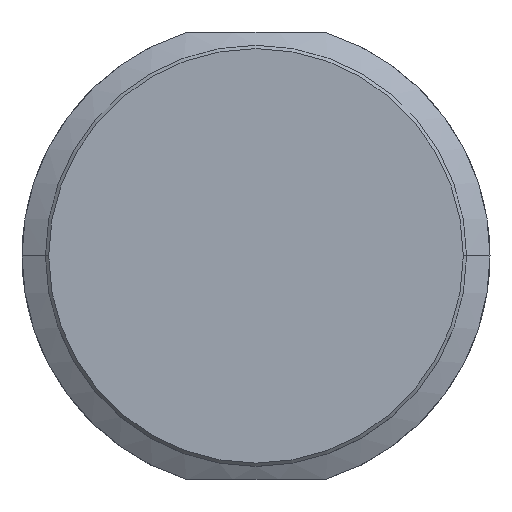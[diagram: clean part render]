
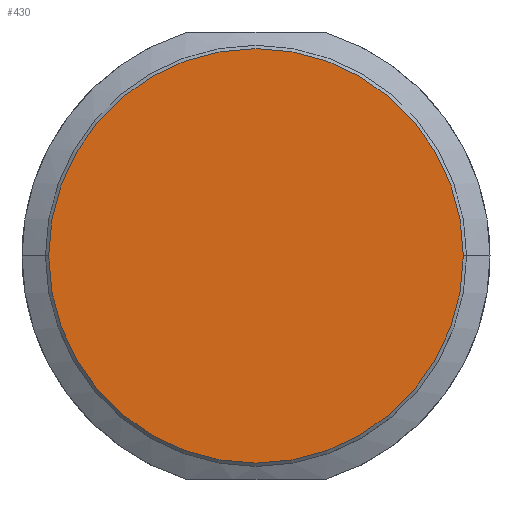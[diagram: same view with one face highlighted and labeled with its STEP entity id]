
A CAD part, top view. The second image highlights one B-rep face of the part: STEP entity #430.
In plain terms, the highlighted planar face has unit normal (0, 0, 1).
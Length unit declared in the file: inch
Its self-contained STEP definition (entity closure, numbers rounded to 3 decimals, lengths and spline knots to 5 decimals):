
#152=CARTESIAN_POINT('',(0.,0.,0.));
#153=DIRECTION('',(0.,0.,1.));
#154=DIRECTION('',(-1.,0.,0.));
#155=AXIS2_PLACEMENT_3D('',#152,#153,#154);
#157=CARTESIAN_POINT('',(0.,0.,0.));
#158=DIRECTION('',(0.,0.,1.));
#159=DIRECTION('',(1.,0.,0.));
#160=AXIS2_PLACEMENT_3D('',#157,#158,#159);
#202=CARTESIAN_POINT('',(-1.28,0.,0.));
#203=CARTESIAN_POINT('',(1.28,0.,0.));
#204=VERTEX_POINT('',#202);
#205=VERTEX_POINT('',#203);
#420=CARTESIAN_POINT('',(0.,0.,0.));
#421=DIRECTION('',(0.,0.,-1.));
#422=DIRECTION('',(-1.,0.,0.));
#423=AXIS2_PLACEMENT_3D('',#420,#421,#422);
#424=PLANE('',#423);
#426=ORIENTED_EDGE('',*,*,#425,.F.);
#427=ORIENTED_EDGE('',*,*,#410,.F.);
#428=EDGE_LOOP('',(#426,#427));
#429=FACE_OUTER_BOUND('',#428,.F.);
#430=ADVANCED_FACE('',(#429),#424,.F.);
#156=CIRCLE('',#155,1.28);
#161=CIRCLE('',#160,1.28);
#410=EDGE_CURVE('',#205,#204,#161,.T.);
#425=EDGE_CURVE('',#204,#205,#156,.T.);
